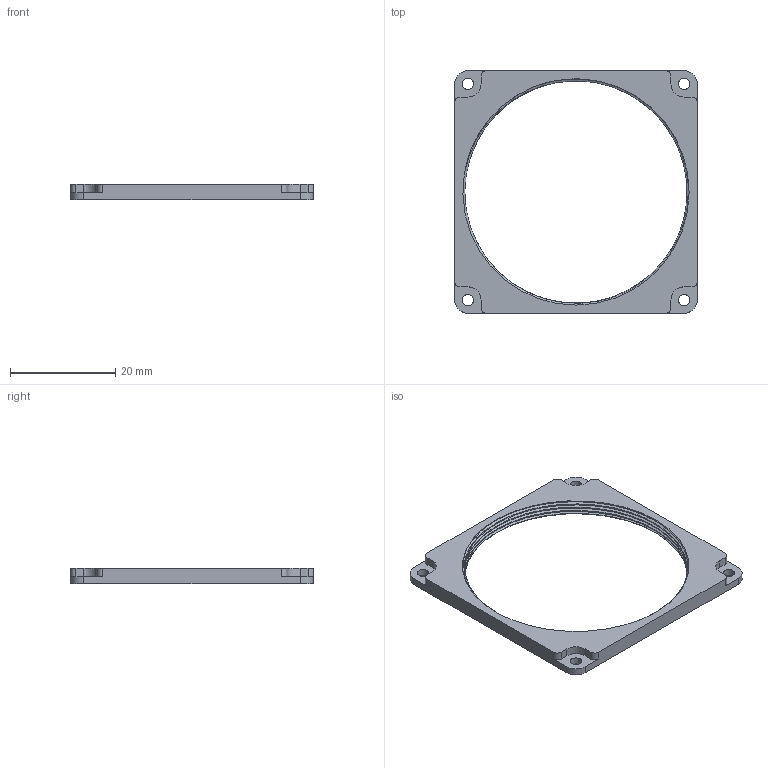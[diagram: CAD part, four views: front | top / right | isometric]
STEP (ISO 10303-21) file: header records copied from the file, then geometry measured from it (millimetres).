
FILE_DESCRIPTION(/* description */ ('NahlinsenAdapter M43x0,75'),/* implementation_level */ '2;1');
FILE_NAME(/* name */ 'KSM_150-13-3-00-06_NahlinsenAdapter M43x0,75.stp',/* time_stamp */ '2026-09-11T09:53:59+02:00',/* author */ ('khw'),/* organization */ ('TIS/ Germany'),/* preprocessor_version */ 'ST-DEVELOPER v20',/* originating_system */ 'Autodesk Inventor 2025',/* authorisation */ '6767,5 mm^3');
FILE_SCHEMA (('AUTOMOTIVE_DESIGN { 1 0 10303 214 3 1 1 }'));
Length unit declared in the file: millimetre
Products named in the file (1): KSM_150-13-3-00-06_NahlinsenAdapter M43x0,75
Bounding box: 46 x 46 x 3 mm (x, y, z)
Volume: 1895.3 mm3; surface area: 2516.5 mm2
Topology: 1 solids, 1 shells, 52 faces, 150 edges, 100 vertices
Faces by surface type: cylinder 30, plane 18, cone 2, bspline 2
Full cylindrical faces by diameter (mm): 2.2 x4, 42.188 x3, 43 x3
Entity records: 3432 total; most frequent: CARTESIAN_POINT 1950, ORIENTED_EDGE 300, DIRECTION 272, EDGE_CURVE 150, VERTEX_POINT 100, AXIS2_PLACEMENT_3D 98, LINE 76, VECTOR 76
